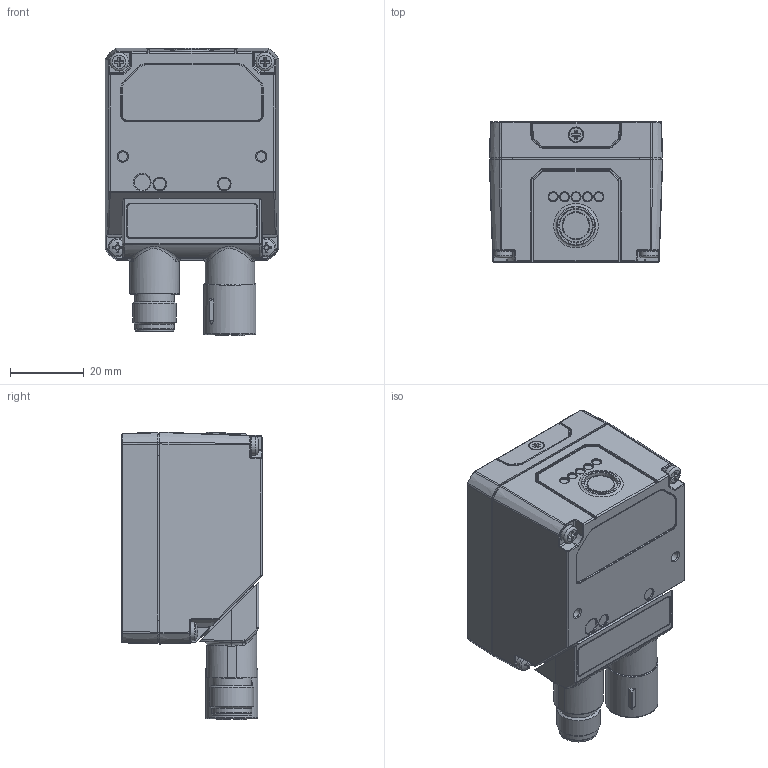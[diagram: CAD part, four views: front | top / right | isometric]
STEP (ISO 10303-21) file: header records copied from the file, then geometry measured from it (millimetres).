
FILE_DESCRIPTION(/* description */ (''),/* implementation_level */ '2;1');
FILE_NAME(/* name */ 'SMART-VS DSD-1030.stp',/* time_stamp */ '2020-10-28T11:23:03+01:00',/* author */ (''),/* organization */ (''),/* preprocessor_version */ 'ST-DEVELOPER v16.7',/* originating_system */ 'SIEMENS PLM Software NX 12.0',/* authorisation */ '');
FILE_SCHEMA (('AUTOMOTIVE_DESIGN { 1 0 10303 214 3 1 1 1 }'));
Length unit declared in the file: millimetre
Products named in the file (1): fgut2A7CEB3Fwlql
Bounding box: 47.1 x 38 x 78.07 mm (x, y, z)
Volume: 100753.2 mm3; surface area: 19424.1 mm2
Topology: 1 solids, 3 shells, 1169 faces, 2846 edges, 1748 vertices
Faces by surface type: plane 410, cylinder 344, bspline 201, torus 116, cone 74, sphere 24
Full cylindrical faces by diameter (mm): 0.6 x17, 2.5 x2, 3.2 x2, 3.5 x2, 3.7 x2, 5 x4, 8.75 x1, 9.5 x1, 9.9 x1, 10.5 x1, 10.7 x1, 10.8 x1, 11.15 x1, 11.85 x1, 12.2 x1, 13.5 x2
Entity records: 37888 total; most frequent: CARTESIAN_POINT 11955, ORIENTED_EDGE 5394, DIRECTION 5325, EDGE_CURVE 2697, AXIS2_PLACEMENT_3D 2091, VERTEX_POINT 1709, EDGE_LOOP 1348, ADVANCED_FACE 1169
